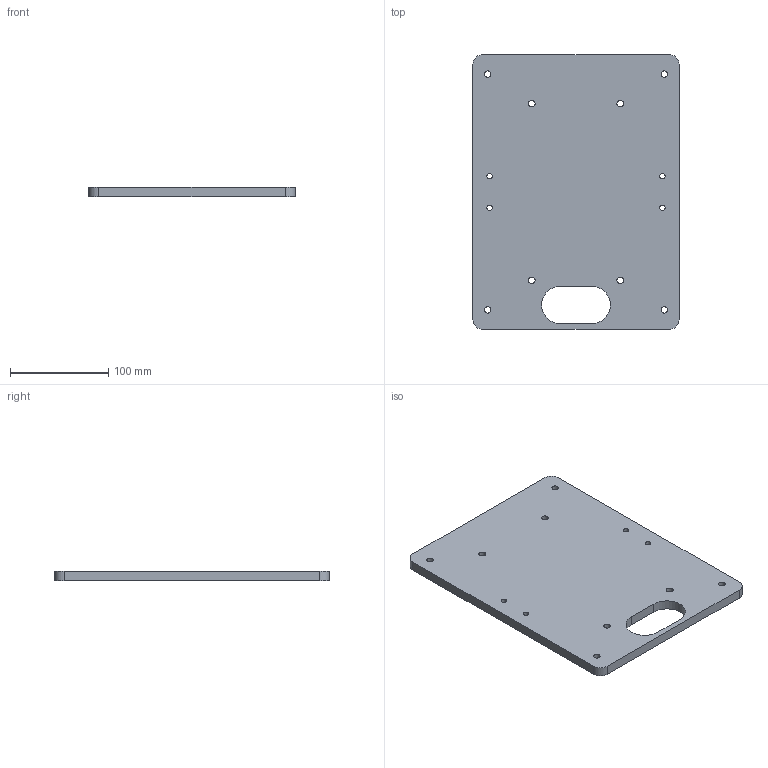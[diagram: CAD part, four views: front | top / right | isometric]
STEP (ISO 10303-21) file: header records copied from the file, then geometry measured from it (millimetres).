
FILE_DESCRIPTION(('Open CASCADE Model'),'2;1');
FILE_NAME('Open CASCADE Shape Model','2026-09-01T17:09:25',('Author'),( 'Open CASCADE'),'Open CASCADE STEP processor 7.9','Open CASCADE 7.9' ,'Unknown');
FILE_SCHEMA(('AUTOMOTIVE_DESIGN { 1 0 10303 214 1 1 1 1 }'));
Length unit declared in the file: millimetre
Products named in the file (1): Open CASCADE STEP translator 7.9 3
Bounding box: 210 x 280 x 10 mm (x, y, z)
Volume: 559869 mm3; surface area: 125811 mm2
Topology: 1 solids, 1 shells, 26 faces, 72 edges, 48 vertices
Faces by surface type: cylinder 18, plane 8
Full cylindrical faces by diameter (mm): 5.5 x4, 6.6 x4, 6.8 x4
Entity records: 1938 total; most frequent: CARTESIAN_POINT 491, DIRECTION 266, ORIENTED_EDGE 144, PCURVE 144, DEFINITIONAL_REPRESENTATION 144, LINE 136, VECTOR 136, EDGE_CURVE 72
